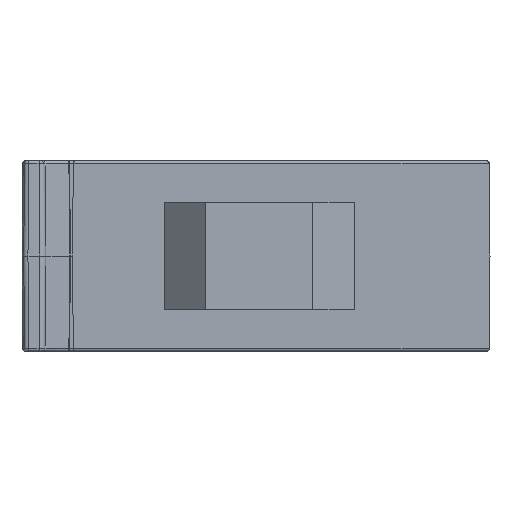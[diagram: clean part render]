
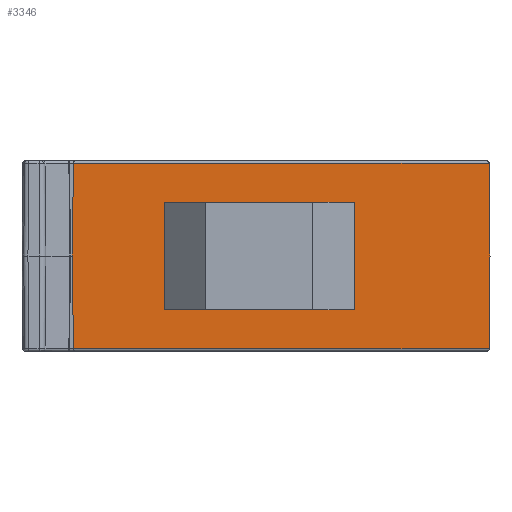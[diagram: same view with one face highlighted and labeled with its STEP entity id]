
A CAD part, front view. The second image highlights one B-rep face of the part: STEP entity #3346.
In plain terms, the highlighted planar face has unit normal (0, -1, 0).
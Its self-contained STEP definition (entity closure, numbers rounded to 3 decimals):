
#39 = CARTESIAN_POINT ( 'NONE',  ( -15.632, 0., -7.8 ) ) ;
#70 = CARTESIAN_POINT ( 'NONE',  ( 0., 0., -0.5 ) ) ;
#259 = VERTEX_POINT ( 'NONE', #2652 ) ;
#261 = VECTOR ( 'NONE', #2960, 1000. ) ;
#276 = DIRECTION ( 'NONE',  ( -1., 0., 0. ) ) ;
#339 = EDGE_CURVE ( 'NONE', #1177, #5350, #1623, .T. ) ;
#400 = ORIENTED_EDGE ( 'NONE', *, *, #2880, .F. ) ;
#441 = VECTOR ( 'NONE', #1006, 1000. ) ;
#480 = DIRECTION ( 'NONE',  ( 0., 1., 0. ) ) ;
#627 = EDGE_LOOP ( 'NONE', ( #3120, #400, #4741, #3929, #958, #5062 ) ) ;
#683 = DIRECTION ( 'NONE',  ( 1., 0., 0. ) ) ;
#756 = CARTESIAN_POINT ( 'NONE',  ( 0., 0., -4.5 ) ) ;
#758 = VECTOR ( 'NONE', #276, 1000. ) ;
#764 = EDGE_LOOP ( 'NONE', ( #5226, #4786, #1784, #2061, #2700, #1558 ) ) ;
#826 = LINE ( 'NONE', #39, #4942 ) ;
#835 = CARTESIAN_POINT ( 'NONE',  ( -15.632, 0., -7.8 ) ) ;
#870 = PLANE ( 'NONE',  #2141 ) ;
#946 = CARTESIAN_POINT ( 'NONE',  ( -5., 0., 0.5 ) ) ;
#958 = ORIENTED_EDGE ( 'NONE', *, *, #2706, .F. ) ;
#977 = DIRECTION ( 'NONE',  ( 0., -1., 0. ) ) ;
#1006 = DIRECTION ( 'NONE',  ( -0.009, 0., -1. ) ) ;
#1149 = DIRECTION ( 'NONE',  ( 0., 0., 1. ) ) ;
#1177 = VERTEX_POINT ( 'NONE', #2867 ) ;
#1205 = CARTESIAN_POINT ( 'NONE',  ( -15.7, 0., 4.5 ) ) ;
#1275 = EDGE_CURVE ( 'NONE', #4071, #3610, #5612, .T. ) ;
#1352 = VECTOR ( 'NONE', #4745, 1000. ) ;
#1355 = CIRCLE ( 'NONE', #4508, 5. ) ;
#1558 = ORIENTED_EDGE ( 'NONE', *, *, #4931, .F. ) ;
#1575 = VERTEX_POINT ( 'NONE', #756 ) ;
#1623 = LINE ( 'NONE', #4385, #5740 ) ;
#1738 = DIRECTION ( 'NONE',  ( 0., 0., -1. ) ) ;
#1784 = ORIENTED_EDGE ( 'NONE', *, *, #2627, .F. ) ;
#1976 = CARTESIAN_POINT ( 'NONE',  ( -15.7, 0., 0. ) ) ;
#2039 = EDGE_CURVE ( 'NONE', #3610, #4938, #4666, .T. ) ;
#2061 = ORIENTED_EDGE ( 'NONE', *, *, #2232, .F. ) ;
#2062 = CARTESIAN_POINT ( 'NONE',  ( 19.4, 0., 0. ) ) ;
#2124 = DIRECTION ( 'NONE',  ( -0.009, 0., 1. ) ) ;
#2141 = AXIS2_PLACEMENT_3D ( 'NONE', #2278, #480, #4435 ) ;
#2232 = EDGE_CURVE ( 'NONE', #5350, #1575, #1355, .T. ) ;
#2278 = CARTESIAN_POINT ( 'NONE',  ( -15.7, 0., 8. ) ) ;
#2284 = LINE ( 'NONE', #5397, #3697 ) ;
#2385 = LINE ( 'NONE', #3187, #441 ) ;
#2472 = EDGE_CURVE ( 'NONE', #5503, #5697, #4777, .T. ) ;
#2507 = LINE ( 'NONE', #1205, #1352 ) ;
#2580 = CARTESIAN_POINT ( 'NONE',  ( -15.7, 0., -7.8 ) ) ;
#2627 = EDGE_CURVE ( 'NONE', #1575, #5503, #4516, .T. ) ;
#2652 = CARTESIAN_POINT ( 'NONE',  ( 19.332, 0., -7.8 ) ) ;
#2700 = ORIENTED_EDGE ( 'NONE', *, *, #339, .F. ) ;
#2706 = EDGE_CURVE ( 'NONE', #4938, #259, #2385, .T. ) ;
#2867 = CARTESIAN_POINT ( 'NONE',  ( -5., 0., 4.5 ) ) ;
#2880 = EDGE_CURVE ( 'NONE', #5136, #4071, #2284, .T. ) ;
#2960 = DIRECTION ( 'NONE',  ( 0.009, 0., -1. ) ) ;
#3120 = ORIENTED_EDGE ( 'NONE', *, *, #1275, .F. ) ;
#3149 = VECTOR ( 'NONE', #683, 1000. ) ;
#3187 = CARTESIAN_POINT ( 'NONE',  ( 19.4, 0., 0. ) ) ;
#3215 = DIRECTION ( 'NONE',  ( 1., 0., 0. ) ) ;
#3233 = EDGE_CURVE ( 'NONE', #259, #3985, #4261, .T. ) ;
#3276 = CARTESIAN_POINT ( 'NONE',  ( -7.111, 0., 7.8 ) ) ;
#3296 = CIRCLE ( 'NONE', #3478, 5. ) ;
#3346 = ADVANCED_FACE ( 'NONE', ( #4467, #4847 ), #870, .F. ) ;
#3447 = CARTESIAN_POINT ( 'NONE',  ( 19.332, 0., 7.8 ) ) ;
#3470 = EDGE_CURVE ( 'NONE', #3985, #5136, #826, .T. ) ;
#3478 = AXIS2_PLACEMENT_3D ( 'NONE', #70, #977, #4626 ) ;
#3504 = DIRECTION ( 'NONE',  ( 0., -1., 0. ) ) ;
#3563 = CARTESIAN_POINT ( 'NONE',  ( 0., 0., 0.5 ) ) ;
#3610 = VERTEX_POINT ( 'NONE', #5158 ) ;
#3697 = VECTOR ( 'NONE', #4010, 1000. ) ;
#3782 = CARTESIAN_POINT ( 'NONE',  ( 0., 0., 4.5 ) ) ;
#3876 = CARTESIAN_POINT ( 'NONE',  ( 5., 0., 8. ) ) ;
#3929 = ORIENTED_EDGE ( 'NONE', *, *, #3233, .F. ) ;
#3957 = VECTOR ( 'NONE', #1149, 1000. ) ;
#3985 = VERTEX_POINT ( 'NONE', #835 ) ;
#4010 = DIRECTION ( 'NONE',  ( 0.009, 0., 1. ) ) ;
#4056 = DIRECTION ( 'NONE',  ( 0., 0., 1. ) ) ;
#4071 = VERTEX_POINT ( 'NONE', #4904 ) ;
#4103 = CARTESIAN_POINT ( 'NONE',  ( -15.7, 0., -4.5 ) ) ;
#4261 = LINE ( 'NONE', #2580, #758 ) ;
#4337 = VECTOR ( 'NONE', #3215, 1000. ) ;
#4385 = CARTESIAN_POINT ( 'NONE',  ( -5., 0., 8. ) ) ;
#4435 = DIRECTION ( 'NONE',  ( 0., 0., 1. ) ) ;
#4467 = FACE_BOUND ( 'NONE', #764, .T. ) ;
#4508 = AXIS2_PLACEMENT_3D ( 'NONE', #3563, #3504, #4056 ) ;
#4514 = EDGE_CURVE ( 'NONE', #5697, #5519, #3296, .T. ) ;
#4516 = LINE ( 'NONE', #4103, #4337 ) ;
#4626 = DIRECTION ( 'NONE',  ( 0., 0., 1. ) ) ;
#4666 = LINE ( 'NONE', #3447, #261 ) ;
#4741 = ORIENTED_EDGE ( 'NONE', *, *, #3470, .F. ) ;
#4745 = DIRECTION ( 'NONE',  ( -1., 0., 0. ) ) ;
#4777 = LINE ( 'NONE', #3876, #3957 ) ;
#4786 = ORIENTED_EDGE ( 'NONE', *, *, #2472, .F. ) ;
#4847 = FACE_OUTER_BOUND ( 'NONE', #627, .T. ) ;
#4904 = CARTESIAN_POINT ( 'NONE',  ( -15.632, 0., 7.8 ) ) ;
#4931 = EDGE_CURVE ( 'NONE', #5519, #1177, #2507, .T. ) ;
#4938 = VERTEX_POINT ( 'NONE', #2062 ) ;
#4942 = VECTOR ( 'NONE', #2124, 1000. ) ;
#5062 = ORIENTED_EDGE ( 'NONE', *, *, #2039, .F. ) ;
#5080 = CARTESIAN_POINT ( 'NONE',  ( 5., 0., -4.5 ) ) ;
#5136 = VERTEX_POINT ( 'NONE', #1976 ) ;
#5158 = CARTESIAN_POINT ( 'NONE',  ( 19.332, 0., 7.8 ) ) ;
#5226 = ORIENTED_EDGE ( 'NONE', *, *, #4514, .F. ) ;
#5350 = VERTEX_POINT ( 'NONE', #946 ) ;
#5397 = CARTESIAN_POINT ( 'NONE',  ( -15.7, 0., 0. ) ) ;
#5439 = CARTESIAN_POINT ( 'NONE',  ( 5., 0., -0.5 ) ) ;
#5503 = VERTEX_POINT ( 'NONE', #5080 ) ;
#5519 = VERTEX_POINT ( 'NONE', #3782 ) ;
#5612 = LINE ( 'NONE', #3276, #3149 ) ;
#5697 = VERTEX_POINT ( 'NONE', #5439 ) ;
#5740 = VECTOR ( 'NONE', #1738, 1000. ) ;
